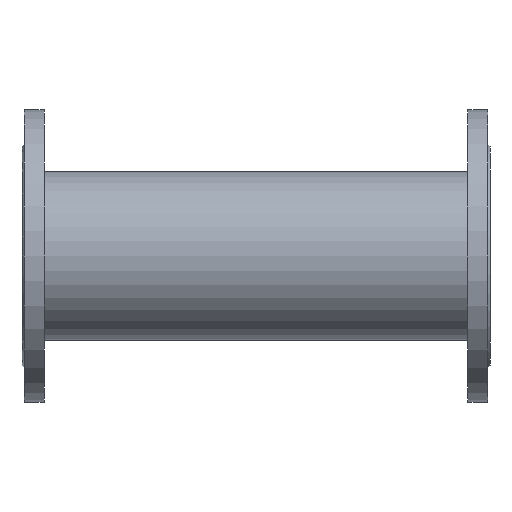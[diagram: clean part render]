
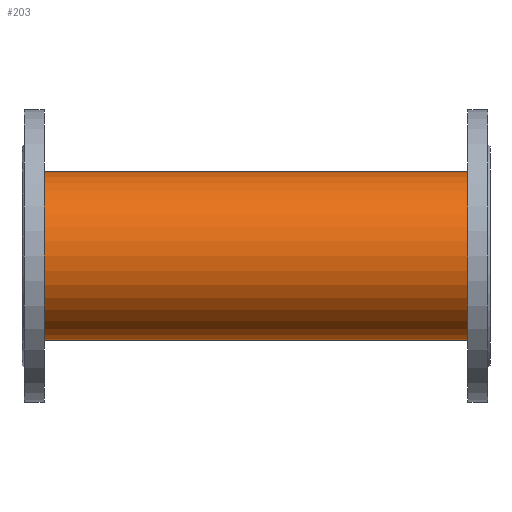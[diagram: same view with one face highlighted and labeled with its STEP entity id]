
A CAD part, front view. The second image highlights one B-rep face of the part: STEP entity #203.
In plain terms, the highlighted cylindrical face has radius 72 mm (diameter 144 mm), a partial arc.
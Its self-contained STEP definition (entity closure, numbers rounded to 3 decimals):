
#203=ADVANCED_FACE('',(#403),#404,.T.);
#403=FACE_OUTER_BOUND('',#663,.T.);
#404=CYLINDRICAL_SURFACE('',#664,72.0);
#663=EDGE_LOOP('',(#1063,#1064,#1065,#1066));
#664=AXIS2_PLACEMENT_3D('',#1067,#1068,#1069);
#1063=ORIENTED_EDGE('',*,*,#1440,.T.);
#1064=ORIENTED_EDGE('',*,*,#1498,.T.);
#1065=ORIENTED_EDGE('',*,*,#1442,.T.);
#1066=ORIENTED_EDGE('',*,*,#1464,.T.);
#1067=CARTESIAN_POINT('',(6.25,0.0,0.));
#1068=DIRECTION('',(1.0,0.0,0.));
#1069=DIRECTION('',(0.,0.0,-1.0));
#1440=EDGE_CURVE('',#1727,#1728,#1729,.T.);
#1442=EDGE_CURVE('',#1732,#1730,#1733,.T.);
#1464=EDGE_CURVE('',#1730,#1727,#1765,.T.);
#1498=EDGE_CURVE('',#1728,#1732,#1813,.T.);
#1727=VERTEX_POINT('',#2086);
#1728=VERTEX_POINT('',#2087);
#1729=LINE('',#2088,#2089);
#1730=VERTEX_POINT('',#2090);
#1732=VERTEX_POINT('',#2092);
#1733=LINE('',#2093,#2094);
#1765=CIRCLE('',#2130,72.0);
#1813=CIRCLE('',#2184,72.0);
#2086=CARTESIAN_POINT('',(6.25,0.0,-72.0));
#2087=CARTESIAN_POINT('',(393.75,0.0,-72.0));
#2088=CARTESIAN_POINT('',(6.25,0.,-72.0));
#2089=VECTOR('',#2420,1.0);
#2090=CARTESIAN_POINT('',(6.25,0.,72.0));
#2092=CARTESIAN_POINT('',(393.75,0.,72.0));
#2093=CARTESIAN_POINT('',(6.25,0.,72.0));
#2094=VECTOR('',#2424,1.0);
#2130=AXIS2_PLACEMENT_3D('',#2462,#2463,#2464);
#2184=AXIS2_PLACEMENT_3D('',#2525,#2526,#2527);
#2420=DIRECTION('',(1.0,0.0,0.));
#2424=DIRECTION('',(-1.0,-0.0,0.));
#2462=CARTESIAN_POINT('',(6.25,0.0,0.));
#2463=DIRECTION('',(1.0,0.0,0.));
#2464=DIRECTION('',(0.,0.0,-1.0));
#2525=CARTESIAN_POINT('',(393.75,0.0,0.));
#2526=DIRECTION('',(-1.0,-0.0,0.));
#2527=DIRECTION('',(0.,0.0,-1.0));
